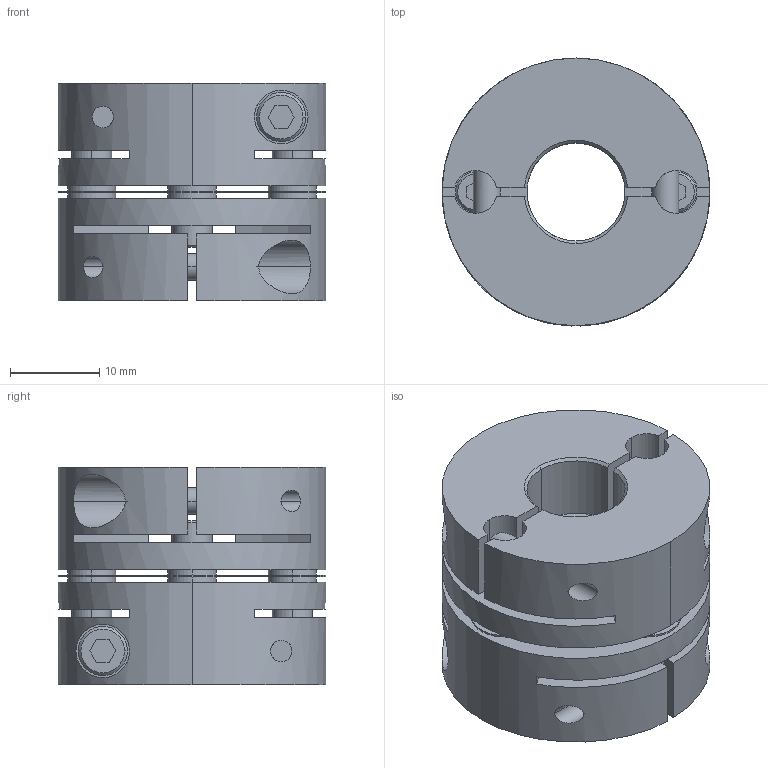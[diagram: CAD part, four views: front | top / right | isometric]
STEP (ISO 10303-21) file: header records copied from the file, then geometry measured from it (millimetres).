
FILE_DESCRIPTION((''),'2;1');
FILE_NAME('LAS-30C-11×11.stp','2011-08-10T13:20:08',(''),(''),'AutoCAD STEP 2000i','AutoCAD 2000i',', , ');
FILE_SCHEMA(('CONFIG_CONTROL_DESIGN'));
Length unit declared in the file: millimetre
Products named in the file (7): LAS-30C-10×10; 忣兜1; LA-3002-D10-1; LA-3002-D10; LA-3002-D06-1; LA-3002-D06; LAS30-ITA
Assembly tree (6 placements, depth 2):
  LAS-30C-10×10
    忣兜1
    LA-3002-D10-1
    LA-3002-D10
    LA-3002-D06-1
    LA-3002-D06
    LAS30-ITA
Bounding box: 30 x 30 x 24.4 mm (x, y, z)
Volume: 12404.4 mm3; surface area: 9059.1 mm2
Topology: 1 solids, 1 shells, 244 faces, 648 edges, 424 vertices
Faces by surface type: plane 112, cylinder 104, cone 28
Entity records: 8527 total; most frequent: CARTESIAN_POINT 2123, DIRECTION 1330, ORIENTED_EDGE 1296, EDGE_CURVE 648, AXIS2_PLACEMENT_3D 487, VERTEX_POINT 424, VECTOR 356, LINE 356
